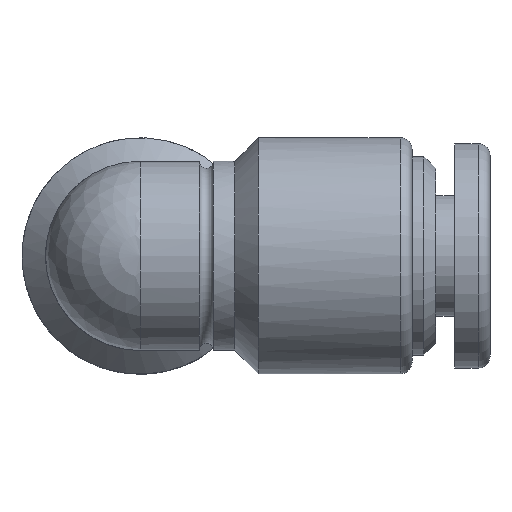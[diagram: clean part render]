
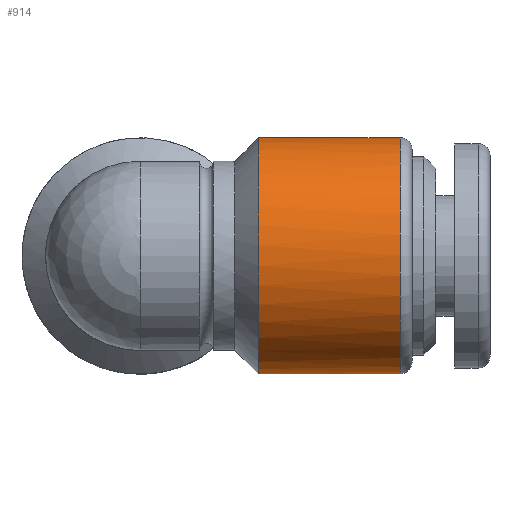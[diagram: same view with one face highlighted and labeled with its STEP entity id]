
A CAD part, top view. The second image highlights one B-rep face of the part: STEP entity #914.
In plain terms, the highlighted cylindrical face has radius 5 mm (diameter 10 mm), a full revolution.
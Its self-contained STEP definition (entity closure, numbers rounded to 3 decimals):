
#594=CARTESIAN_POINT('',(5.0,-0.75,-4.943));
#595=VERTEX_POINT('',#594);
#596=CARTESIAN_POINT('',(7.,-0.75,-4.943));
#597=VERTEX_POINT('',#596);
#598=CARTESIAN_POINT('',(5.0,-0.75,-4.943));
#599=DIRECTION('',(1.0,0.0,0.0));
#600=VECTOR('',#599,2.);
#601=LINE('',#598,#600);
#602=EDGE_CURVE('',#595,#597,#601,.T.);
#689=CARTESIAN_POINT('',(7.,0.0,-5.0));
#690=VERTEX_POINT('',#689);
#691=CARTESIAN_POINT('',(7.,0.75,-4.943));
#692=VERTEX_POINT('',#691);
#693=CARTESIAN_POINT('',(7.,0.0,0.0));
#694=DIRECTION('',(1.0,0.0,0.0));
#695=DIRECTION('',(0.0,0.0,1.0));
#696=AXIS2_PLACEMENT_3D('',#693,#694,#695);
#697=CIRCLE('',#696,5.0);
#698=EDGE_CURVE('',#690,#692,#697,.T.);
#802=CARTESIAN_POINT('',(7.,0.0,0.0));
#803=DIRECTION('',(1.0,0.0,0.0));
#804=DIRECTION('',(0.0,0.0,1.0));
#805=AXIS2_PLACEMENT_3D('',#802,#803,#804);
#806=CIRCLE('',#805,5.0);
#807=EDGE_CURVE('',#597,#690,#806,.T.);
#819=CARTESIAN_POINT('',(5.0,0.75,-4.943));
#820=VERTEX_POINT('',#819);
#821=CARTESIAN_POINT('',(7.,0.75,-4.943));
#822=DIRECTION('',(-1.0,0.0,0.0));
#823=VECTOR('',#822,2.);
#824=LINE('',#821,#823);
#825=EDGE_CURVE('',#692,#820,#824,.T.);
#885=CARTESIAN_POINT('',(4.0,0.0,0.0));
#886=DIRECTION('',(1.0,0.0,0.0));
#887=DIRECTION('',(0.0,0.0,1.0));
#888=AXIS2_PLACEMENT_3D('',#885,#886,#887);
#889=CYLINDRICAL_SURFACE('',#888,5.0);
#890=CARTESIAN_POINT('',(11.,0.,-5.0));
#891=VERTEX_POINT('',#890);
#892=CARTESIAN_POINT('',(11.,0.0,0.0));
#893=DIRECTION('',(1.0,0.0,0.0));
#894=DIRECTION('',(0.0,0.0,1.0));
#895=AXIS2_PLACEMENT_3D('',#892,#893,#894);
#896=CIRCLE('',#895,5.0);
#897=EDGE_CURVE('',#891,#891,#896,.T.);
#898=ORIENTED_EDGE('',*,*,#897,.F.);
#899=EDGE_LOOP('',(#898));
#900=FACE_OUTER_BOUND('',#899,.T.);
#901=ORIENTED_EDGE('',*,*,#602,.T.);
#902=ORIENTED_EDGE('',*,*,#807,.T.);
#903=ORIENTED_EDGE('',*,*,#698,.T.);
#904=ORIENTED_EDGE('',*,*,#825,.T.);
#905=CARTESIAN_POINT('',(5.0,0.0,0.0));
#906=DIRECTION('',(-1.0,0.0,0.0));
#907=DIRECTION('',(0.0,0.0,1.0));
#908=AXIS2_PLACEMENT_3D('',#905,#906,#907);
#909=CIRCLE('',#908,5.0);
#910=EDGE_CURVE('',#595,#820,#909,.T.);
#911=ORIENTED_EDGE('',*,*,#910,.F.);
#912=EDGE_LOOP('',(#901,#902,#903,#904,#911));
#913=FACE_BOUND('',#912,.T.);
#914=ADVANCED_FACE('',(#900,#913),#889,.T.);
